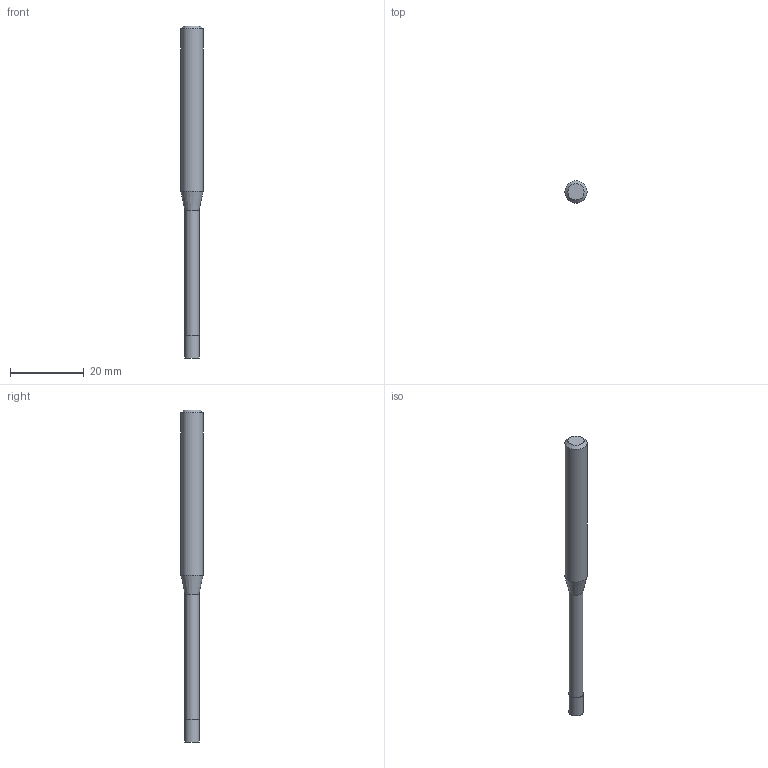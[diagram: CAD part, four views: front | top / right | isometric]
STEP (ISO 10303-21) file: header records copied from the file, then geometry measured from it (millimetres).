
FILE_DESCRIPTION((''),'2;1');
FILE_NAME('C:\Users\nsx150\AppData\Local\Temp\Mastercam 2021\17T8Q8S9EB\TEMP.step','2021-04-21T16:16:23',(''),(''),'STEP Write','Mastercam 2021 ... CNC Software, Inc.','');
FILE_SCHEMA(('AUTOMOTIVE_DESIGN'));
Length unit declared in the file: millimetre
Products named in the file (1): None
Bounding box: 6 x 6 x 90 mm (x, y, z)
Volume: 1822.1 mm3; surface area: 1462.7 mm2
Topology: 2 solids, 2 shells, 9 faces, 12 edges, 7 vertices
Faces by surface type: plane 4, cylinder 3, cone 2
Full cylindrical faces by diameter (mm): 3.8 x1, 4 x1, 6 x1
Entity records: 211 total; most frequent: DIRECTION 36, CARTESIAN_POINT 25, AXIS2_PLACEMENT_3D 18, ORIENTED_EDGE 14, EDGE_LOOP 14, STYLED_ITEM 12, ADVANCED_FACE 9, FACE_BOUND 8
